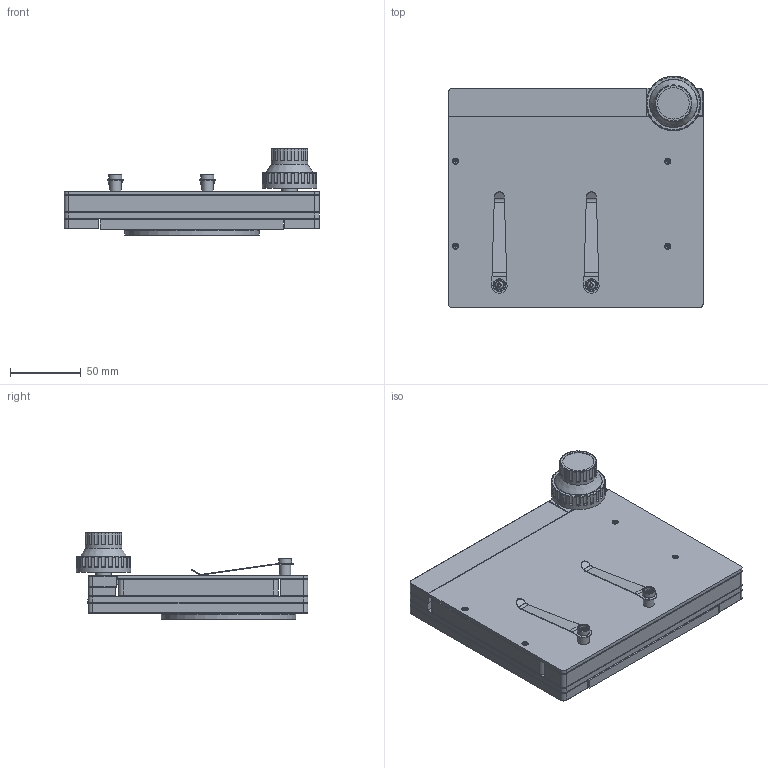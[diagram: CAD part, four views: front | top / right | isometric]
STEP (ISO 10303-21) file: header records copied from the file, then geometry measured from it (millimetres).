
FILE_DESCRIPTION(('STEP AP214'),'1');
FILE_NAME('TK100.stp','2023-06-05T02:36:27',(' '),(' '),'Spatial InterOp 3D',' ',' ');
FILE_SCHEMA(('AUTOMOTIVE_DESIGN { 1 0 10303 214 1 1 1 1 }'));
Length unit declared in the file: metre
Products named in the file (3): TK100; Component1; Component2
Assembly tree (2 placements, depth 2):
  TK100
    Component1
    Component2
Bounding box: 180.3 x 163.6 x 61.8 mm (x, y, z)
Volume: 587920.2 mm3; surface area: 198826.3 mm2
Topology: 8 solids, 8 shells, 1009 faces, 2653 edges, 1698 vertices
Faces by surface type: plane 503, cylinder 310, torus 137, cone 29, bspline 28, sphere 2
Full cylindrical faces by diameter (mm): 2 x2, 3 x12, 3.1 x2, 3.2 x2, 3.3 x3, 3.5 x10, 4.3 x2, 4.5 x4, 5.1 x4, 5.3 x2, 6 x6, 6.2 x2, 6.4 x8, 6.7 x3, 8 x10, 9 x2, 11.2 x1, 22.2 x1, 24 x1, 26 x1, 33.5 x1, 34 x1, 36.1 x1, 37 x1, 38.5 x1, 75 x1, 95 x1
Entity records: 52542 total; most frequent: CARTESIAN_POINT 8419, DIRECTION 4876, ORIENTED_EDGE 4840, STYLED_ITEM 3437, PRESENTATION_STYLE_ASSIGNMENT 3437, COLOUR_RGB 3437, EDGE_CURVE 2420, CURVE_STYLE 2420
